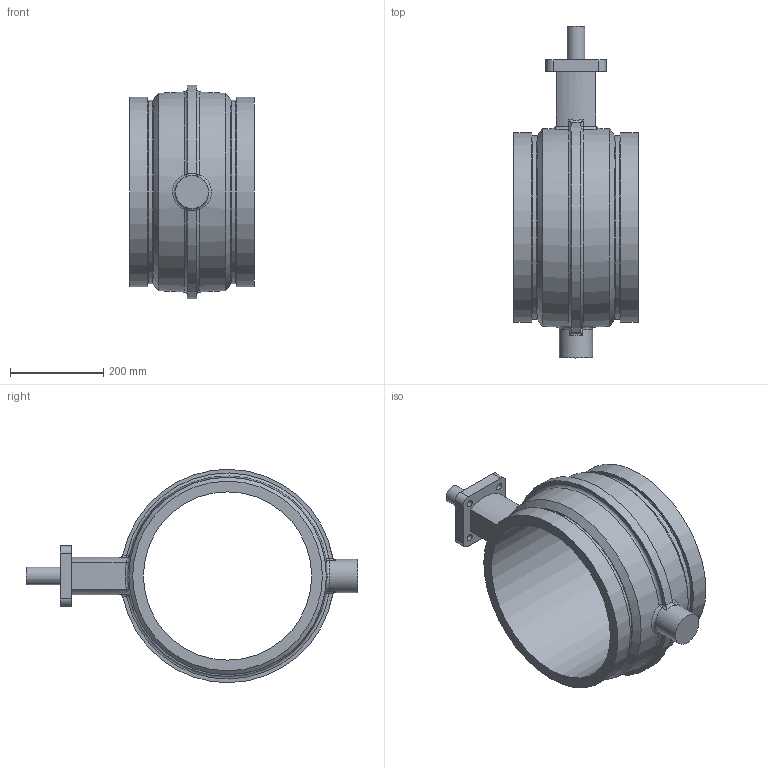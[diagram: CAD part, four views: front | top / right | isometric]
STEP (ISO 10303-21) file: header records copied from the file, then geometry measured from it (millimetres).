
FILE_DESCRIPTION(/* description */ ('VIC AGS VALVE BUTTERFLY VIC-300 MS BARE SERIES W761 (AGS)'),/* implementation_level */ '2;1');
FILE_NAME(/* name */ 'C:\Files for Export\W761\STEP\Victaulic_IPS-AGS_Vlv Btfl Vic-300 MS Bare_Series W761 (AGS)\Victaulic_IPS-AGS_Vlv Btfl Vic-300 MS Bare_Series W761 (AGS)_16 (400).stp',/* time_stamp */ '2024-08-27T14:18:31+02:00',/* author */ ('jheald'),/* organization */ ('Victaulic'),/* preprocessor_version */ 'ST-DEVELOPER v18.1',/* originating_system */ 'Autodesk Inventor 2020',/* authorisation */ '');
FILE_SCHEMA (('AUTOMOTIVE_DESIGN { 1 0 10303 214 3 1 1 }'));
Length unit declared in the file: inch
Products named in the file (1): W761-16.0
Bounding box: 266.7 x 711.2 x 457.17 mm (x, y, z)
Volume: 10995523.7 mm3; surface area: 862172.2 mm2
Topology: 1 solids, 1 shells, 77 faces, 210 edges, 139 vertices
Faces by surface type: cylinder 27, plane 18, torus 10, bspline 10, sphere 8, cone 4
Full cylindrical faces by diameter (mm): 14.732 x4, 38.1 x1, 71.12 x1, 360.426 x1, 393.7 x2, 406.4 x2
Entity records: 3137 total; most frequent: CARTESIAN_POINT 1084, ORIENTED_EDGE 420, DIRECTION 393, EDGE_CURVE 210, AXIS2_PLACEMENT_3D 170, VERTEX_POINT 139, CIRCLE 102, EDGE_LOOP 91
